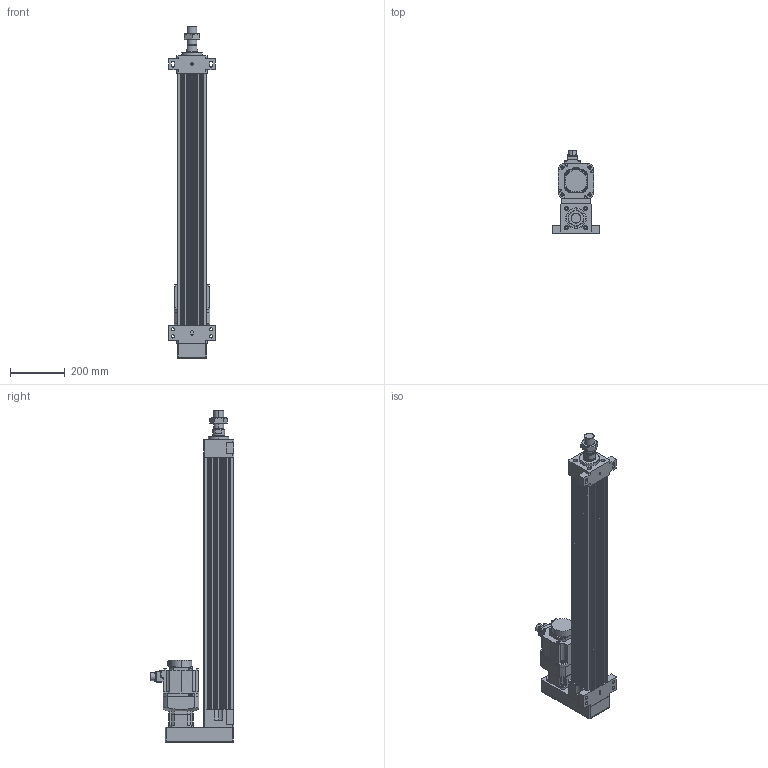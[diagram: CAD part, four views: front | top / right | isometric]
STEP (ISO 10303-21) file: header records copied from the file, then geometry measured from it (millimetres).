
FILE_DESCRIPTION (( 'STEP AP203' ), '1' );
FILE_NAME ('HES110NS(HS)-P750-W010G00-M-FFB.STEP', '2023-01-26T09:36:05', ( 'tms' ), ( '' ), 'SwSTEP 2.0', 'SolidWorks 2013', '' );
FILE_SCHEMA (( 'CONFIG_CONTROL_DESIGN' ));
Length unit declared in the file: millimetre
Products named in the file (8): AB0901; HES110-P750-G090-FFB; HG-SR102; M36X1.5P; AB090-003[HG-SR102B]; HES110 ROD M ST750; HES110NS(HS)-P750-W010G00-M-FFB; P0401301004
Assembly tree (7 placements, depth 3):
  HES110NS(HS)-P750-W010G00-M-FFB
    HES110-P750-G090-FFB
    HES110 ROD M ST750
    M36X1.5P
    AB090-003[HG-SR102B]
      AB0901
      P0401301004
    HG-SR102
Bounding box: 170 x 304.99 x 1213 mm (x, y, z)
Volume: 10259214.9 mm3; surface area: 1383763.5 mm2
Topology: 4 solids, 11 shells, 1083 faces, 2775 edges, 1806 vertices
Faces by surface type: cylinder 501, plane 500, cone 70, bspline 8, torus 4
Entity records: 34904 total; most frequent: CARTESIAN_POINT 6854, DIRECTION 5982, ORIENTED_EDGE 5502, EDGE_CURVE 2761, AXIS2_PLACEMENT_3D 2205, VERTEX_POINT 1806, LINE 1572, VECTOR 1572
